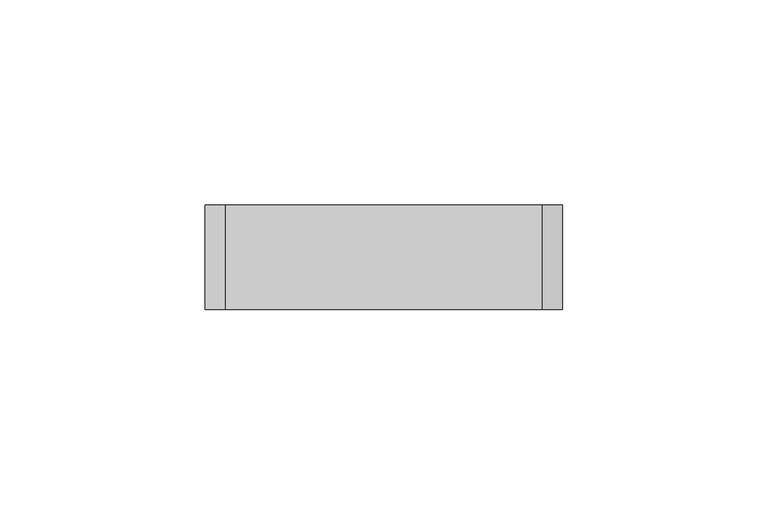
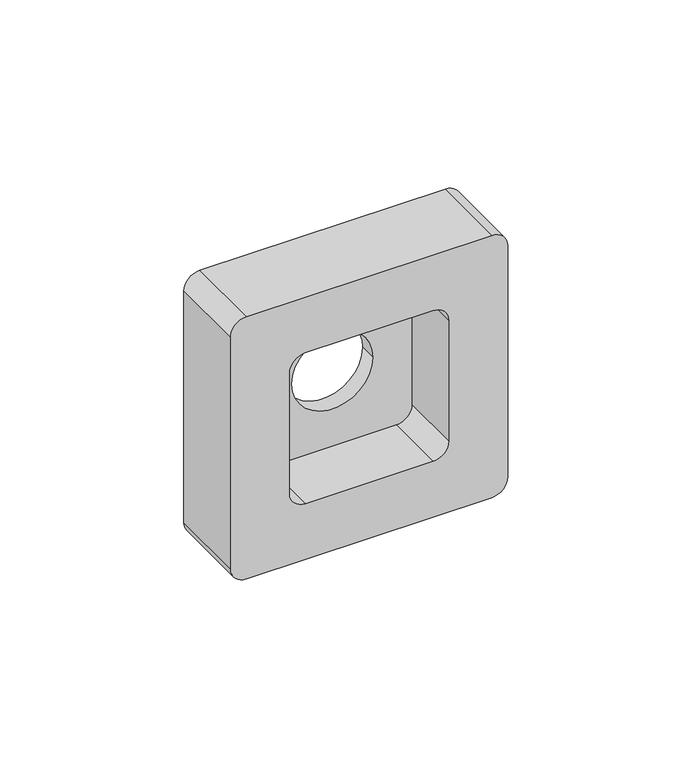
"""IFC4 building model written with IfcOpenShell, lengths in millimetres: proxy geometry, КНС_КоробкаМонтажнаяПод2МодуляЭлектроустановочныхИзделийPDD-N60_ILF_DKC : Белая."""

from ifc_helpers import new_model, si_unit, frame, origin, place, context, project, spatial, polyline, circle_curve, source, transform, mapped, element, save
from ifc_brep_helpers import plane_surface, cylinder_surface, revolved_surface, advanced_brep


def electrical_fixtures_9115882a(model_context):
    return source(origin(), model_context, "Body", "AdvancedBrep", [
        advanced_brep(
        [(38.5, 0.0, 43.5), (-38.5, 0.0, 43.5), (-43.5, 0.0, 38.5), (-43.5, 0.0, -38.5), (-38.5, 0.0, -43.5), (38.5, 0.0, -43.5), (43.5, 0.0, -38.5), (43.5, 0.0, 38.5), (-20.0, 0.0, 25.0), (20.0, 0.0, 25.0), (25.0, 0.0, 20.0), (25.0, 0.0, -20.0), (20.0, 0.0, -25.0), (-20.0, 0.0, -25.0), (-25.0, 0.0, -20.0), (-25.0, 0.0, 20.0), (38.5, 25.4, 43.5), (43.5, 25.4, 38.5), (43.5, 25.4, -38.5), (38.5, 25.4, -43.5), (-38.5, 25.4, -43.5), (-43.5, 25.4, -38.5), (-43.5, 25.4, 38.5), (-38.5, 25.4, 43.5), (-12.7, 25.4, 0.0), (12.7, 25.4, 0.0), (20.0, 20.0, 25.0), (-20.0, 20.0, 25.0), (-25.0, 20.0, 20.0), (-25.0, 20.0, -20.0), (-20.0, 20.0, -25.0), (20.0, 20.0, -25.0), (25.0, 20.0, -20.0), (25.0, 20.0, 20.0), (12.7, 20.0, 0.0), (-12.7, 20.0, 0.0)],
        [
            (0, 1),
            (1, 2, circle_curve(frame((-38.5, 0.0, 38.5), z_axis=(0.0, -1.0, 0.0), x_axis=(1.0, 0.0, 0.0)), 5.0)),
            (2, 3),
            (3, 4, circle_curve(frame((-38.5, 0.0, -38.5), z_axis=(0.0, -1.0, 0.0), x_axis=(1.0, 0.0, 0.0)), 5.0)),
            (4, 5),
            (5, 6, circle_curve(frame((38.5, 0.0, -38.5), z_axis=(0.0, -1.0, 0.0), x_axis=(1.0, 0.0, 0.0)), 5.0)),
            (6, 7),
            (7, 0, circle_curve(frame((38.5, 0.0, 38.5), z_axis=(0.0, -1.0, 0.0), x_axis=(1.0, 0.0, 0.0)), 5.0)),
            (8, 9),
            (9, 10, circle_curve(frame((20.0, 0.0, 20.0), z_axis=(0.0, 1.0, 0.0), x_axis=(1.0, 0.0, 0.0)), 5.0)),
            (10, 11),
            (11, 12, circle_curve(frame((20.0, 0.0, -20.0), z_axis=(0.0, 1.0, 0.0), x_axis=(1.0, 0.0, 0.0)), 5.0)),
            (12, 13),
            (13, 14, circle_curve(frame((-20.0, 0.0, -20.0), z_axis=(0.0, 1.0, 0.0), x_axis=(1.0, 0.0, 0.0)), 5.0)),
            (14, 15),
            (15, 8, circle_curve(frame((-20.0, 0.0, 20.0), z_axis=(0.0, 1.0, 0.0), x_axis=(1.0, 0.0, 0.0)), 5.0)),
            (16, 17, circle_curve(frame((38.5, 25.4, 38.5), z_axis=(0.0, 1.0, 0.0), x_axis=(1.0, 0.0, 0.0)), 5.0)),
            (17, 18),
            (18, 19, circle_curve(frame((38.5, 25.4, -38.5), z_axis=(0.0, 1.0, 0.0), x_axis=(1.0, 0.0, 0.0)), 5.0)),
            (19, 20),
            (20, 21, circle_curve(frame((-38.5, 25.4, -38.5), z_axis=(0.0, 1.0, 0.0), x_axis=(1.0, 0.0, 0.0)), 5.0)),
            (21, 22),
            (22, 23, circle_curve(frame((-38.5, 25.4, 38.5), z_axis=(0.0, 1.0, 0.0), x_axis=(1.0, 0.0, 0.0)), 5.0)),
            (23, 16),
            (24, 25, circle_curve(frame((0.0, 25.4, 0.0), z_axis=(0.0, -1.0, 0.0), x_axis=(1.0, 0.0, 0.0)), 12.7)),
            (25, 24, circle_curve(frame((0.0, 25.4, 0.0), z_axis=(0.0, -1.0, 0.0), x_axis=(1.0, 0.0, 0.0)), 12.7)),
            (0, 16),
            (23, 1),
            (22, 2),
            (21, 3),
            (20, 4),
            (19, 5),
            (18, 6),
            (17, 7),
            (26, 27),
            (27, 28, circle_curve(frame((-20.0, 20.0, 20.0), z_axis=(0.0, -1.0, 0.0), x_axis=(1.0, 0.0, 0.0)), 5.0)),
            (28, 29),
            (29, 30, circle_curve(frame((-20.0, 20.0, -20.0), z_axis=(0.0, -1.0, 0.0), x_axis=(1.0, 0.0, 0.0)), 5.0)),
            (30, 31),
            (31, 32, circle_curve(frame((20.0, 20.0, -20.0), z_axis=(0.0, -1.0, 0.0), x_axis=(1.0, 0.0, 0.0)), 5.0)),
            (32, 33),
            (33, 26, circle_curve(frame((20.0, 20.0, 20.0), z_axis=(0.0, -1.0, 0.0), x_axis=(1.0, 0.0, 0.0)), 5.0)),
            (34, 35, circle_curve(frame((0.0, 20.0, 0.0), z_axis=(0.0, 1.0, 0.0), x_axis=(1.0, 0.0, 0.0)), 12.7)),
            (35, 34, circle_curve(frame((0.0, 20.0, 0.0), z_axis=(0.0, 1.0, 0.0), x_axis=(1.0, 0.0, 0.0)), 12.7)),
            (26, 9),
            (8, 27),
            (15, 28),
            (14, 29),
            (13, 30),
            (12, 31),
            (11, 32),
            (10, 33),
            (34, 25),
            (24, 35),
        ],
        [
            plane_surface(frame((-43.5, 0.0, 43.5), z_axis=(0.0, -1.0, 0.0), x_axis=(-1.0, 0.0, 0.0))),
            plane_surface(frame((-43.5, 25.4, 43.5), z_axis=(0.0, 1.0, 0.0), x_axis=(1.0, 0.0, 0.0))),
            plane_surface(frame((38.5, 0.0, 43.5), z_axis=(0.0, 0.0, 1.0), x_axis=(0.0, 1.0, 0.0))),
            cylinder_surface(frame((-38.5, 25.4, 38.5), z_axis=(0.0, -1.0, 0.0), x_axis=(1.0, 0.0, 0.0)), 5.0),
            plane_surface(frame((-43.5, 0.0, 38.5), z_axis=(-1.0, 0.0, 0.0), x_axis=(0.0, 1.0, 0.0))),
            cylinder_surface(frame((-38.5, 25.4, -38.5), z_axis=(0.0, -1.0, 0.0), x_axis=(1.0, 0.0, 0.0)), 5.0),
            plane_surface(frame((-38.5, 0.0, -43.5), z_axis=(0.0, 0.0, -1.0), x_axis=(0.0, 1.0, 0.0))),
            cylinder_surface(frame((38.5, 25.4, -38.5), z_axis=(0.0, -1.0, 0.0), x_axis=(1.0, 0.0, 0.0)), 5.0),
            plane_surface(frame((43.5, 0.0, -38.5), z_axis=(1.0, 0.0, 0.0), x_axis=(0.0, 1.0, 0.0))),
            cylinder_surface(frame((38.5, 25.4, 38.5), z_axis=(0.0, -1.0, 0.0), x_axis=(1.0, 0.0, 0.0)), 5.0),
            plane_surface(frame((-43.5, 20.0, 25.0), z_axis=(0.0, -1.0, 0.0), x_axis=(1.0, 0.0, 0.0))),
            plane_surface(frame((20.0, 0.0, 25.0), z_axis=(0.0, 0.0, -1.0), x_axis=(0.0, 1.0, 0.0))),
            revolved_surface(polyline([(-15.0, 0.0, 20.0), (-15.0, 20.0, 20.0)]), (-20.0, 20.0, 20.0), (0.0, -1.0, 0.0)),
            plane_surface(frame((-25.0, 0.0, 20.0), z_axis=(1.0, 0.0, 0.0), x_axis=(0.0, 1.0, 0.0))),
            revolved_surface(polyline([(-15.0, 0.0, -20.0), (-15.0, 20.0, -20.0)]), (-20.0, 20.0, -20.0), (0.0, -1.0, 0.0)),
            plane_surface(frame((-20.0, 0.0, -25.0), z_axis=(0.0, 0.0, 1.0), x_axis=(0.0, 1.0, 0.0))),
            revolved_surface(polyline([(25.0, 0.0, -20.0), (25.0, 20.0, -20.0)]), (20.0, 20.0, -20.0), (0.0, -1.0, 0.0)),
            plane_surface(frame((25.0, 0.0, -20.0), z_axis=(-1.0, 0.0, 0.0), x_axis=(0.0, 1.0, 0.0))),
            revolved_surface(polyline([(25.0, 0.0, 20.0), (25.0, 20.0, 20.0)]), (20.0, 20.0, 20.0), (0.0, -1.0, 0.0)),
            revolved_surface(polyline([(12.7, 20.0, 0.0), (12.7, 25.4, 0.0)]), (0.0, 25.4, 0.0), (0.0, -1.0, 0.0)),
        ],
        [
            (0, [[1, 2, 3, 4, 5, 6, 7, 8], [9, 10, 11, 12, 13, 14, 15, 16]]),
            (1, [[17, 18, 19, 20, 21, 22, 23, 24], [25, 26]]),
            (2, [[-1, 27, -24, 28]]),
            (3, [[-2, -28, -23, 29]]),
            (4, [[-3, -29, -22, 30]]),
            (5, [[-4, -30, -21, 31]]),
            (6, [[-5, -31, -20, 32]]),
            (7, [[-6, -32, -19, 33]]),
            (8, [[-7, -33, -18, 34]]),
            (9, [[-8, -34, -17, -27]]),
            (10, [[35, 36, 37, 38, 39, 40, 41, 42], [43, 44]]),
            (11, [[-35, 45, -9, 46]]),
            (12, [[-36, -46, -16, 47]]),
            (13, [[-37, -47, -15, 48]]),
            (14, [[-38, -48, -14, 49]]),
            (15, [[-39, -49, -13, 50]]),
            (16, [[-40, -50, -12, 51]]),
            (17, [[-41, -51, -11, 52]]),
            (18, [[-42, -52, -10, -45]]),
            (19, [[53, -25, 54, -43]]),
            (19, [[-53, -44, -54, -26]]),
        ],
    ),
    ])


if __name__ == "__main__":
    model = new_model("IFC4")
    model_context = context("Model", 3, world=origin())
    ifc_project = project(units=[si_unit("LENGTHUNIT", "METRE", prefix="MILLI")], contexts=[model_context])
    site = spatial("IfcSite", under=ifc_project)
    building = spatial("IfcBuilding", under=site)
    placement = place(None, origin())
    electrical_fixtures_shape = electrical_fixtures_9115882a(model_context)
    element("IfcBuildingElementProxy", 1, Name="КНС_КоробкаМонтажнаяПод2МодуляЭлектроустановочныхИзделийPDD-N60_ILF_DKC : Белая", ObjectType="КНС_КоробкаМонтажнаяПод2МодуляЭлектроустановочныхИзделийPDD-N60_ILF_DKC : Белая", at=placement, inside=building, context=model_context, shape_type="MappedRepresentation", body=[
        mapped(electrical_fixtures_shape, transform((0.0, 0.0, 0.0), x_axis=(1.0, 0.0, 0.0), y_axis=(0.0, 1.0, 0.0), z_axis=(0.0, 0.0, 1.0))),
    ])
    save(model, "model.ifc")
